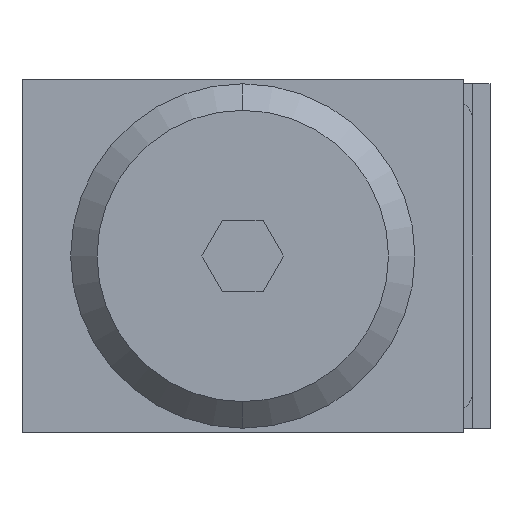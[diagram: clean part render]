
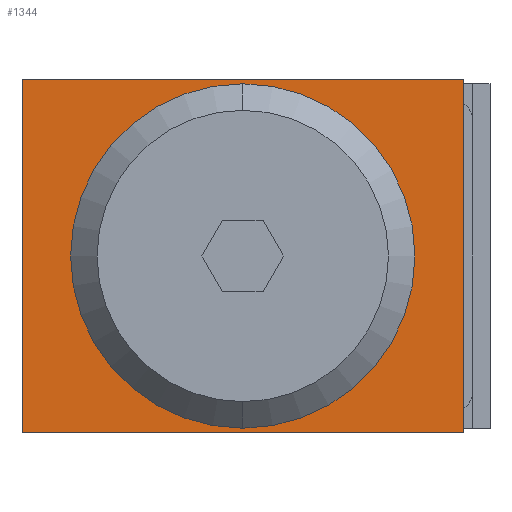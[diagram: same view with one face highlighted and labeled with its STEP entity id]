
A CAD part, front view. The second image highlights one B-rep face of the part: STEP entity #1344.
In plain terms, the highlighted planar face has unit normal (0, -1, 0).
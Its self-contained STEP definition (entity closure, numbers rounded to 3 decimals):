
#1069 = VERTEX_POINT ( 'NONE', #2254 ) ;
#1087 = EDGE_CURVE ( 'NONE', #1069, #1088, #2373, .T. ) ;
#1088 = VERTEX_POINT ( 'NONE', #2335 ) ;
#1232 = EDGE_CURVE ( 'NONE', #1233, #1234, #2713, .T. ) ;
#1233 = VERTEX_POINT ( 'NONE', #2708 ) ;
#1234 = VERTEX_POINT ( 'NONE', #2709 ) ;
#1235 = ORIENTED_EDGE ( 'NONE', *, *, #1236, .F. ) ;
#1236 = EDGE_CURVE ( 'NONE', #1237, #1234, #2707, .T. ) ;
#1237 = VERTEX_POINT ( 'NONE', #2703 ) ;
#1238 = ORIENTED_EDGE ( 'NONE', *, *, #1239, .F. ) ;
#1239 = EDGE_CURVE ( 'NONE', #1240, #1237, #2702, .T. ) ;
#1240 = VERTEX_POINT ( 'NONE', #2698 ) ;
#1241 = ORIENTED_EDGE ( 'NONE', *, *, #1242, .T. ) ;
#1242 = EDGE_CURVE ( 'NONE', #1240, #1233, #2697, .T. ) ;
#1243 = EDGE_LOOP ( 'NONE', ( #1244, #1347 ) ) ;
#1244 = ORIENTED_EDGE ( 'NONE', *, *, #1245, .F. ) ;
#1245 = EDGE_CURVE ( 'NONE', #1088, #1069, #2693, .T. ) ;
#1344 = ADVANCED_FACE ( 'NONE', ( #2943, #2942 ), #2941, .F. ) ;
#1345 = EDGE_LOOP ( 'NONE', ( #1346, #1235, #1238, #1241 ) ) ;
#1346 = ORIENTED_EDGE ( 'NONE', *, *, #1232, .T. ) ;
#1347 = ORIENTED_EDGE ( 'NONE', *, *, #1087, .F. ) ;
#2254 = CARTESIAN_POINT ( 'NONE',  ( -5.5, 0., 20. ) ) ;
#2335 = CARTESIAN_POINT ( 'NONE',  ( -44.5, 0., 20. ) ) ;
#2336 = DIRECTION ( 'NONE',  ( -1., 0., 0. ) ) ;
#2337 = DIRECTION ( 'NONE',  ( 0., -1., 0. ) ) ;
#2371 = CARTESIAN_POINT ( 'NONE',  ( -25., 0., 20. ) ) ;
#2372 = AXIS2_PLACEMENT_3D ( 'NONE', #2371, #2337, #2336 ) ;
#2373 = CIRCLE ( 'NONE', #2372, 19.5 ) ;
#2689 = DIRECTION ( 'NONE',  ( -1., 0., 0. ) ) ;
#2690 = DIRECTION ( 'NONE',  ( 0., -1., 0. ) ) ;
#2691 = CARTESIAN_POINT ( 'NONE',  ( -25., 0., 20. ) ) ;
#2692 = AXIS2_PLACEMENT_3D ( 'NONE', #2691, #2690, #2689 ) ;
#2693 = CIRCLE ( 'NONE', #2692, 19.5 ) ;
#2694 = DIRECTION ( 'NONE',  ( 0., 0., -1. ) ) ;
#2695 = VECTOR ( 'NONE', #2694, 1000. ) ;
#2696 = CARTESIAN_POINT ( 'NONE',  ( -50., 0., 40. ) ) ;
#2697 = LINE ( 'NONE', #2696, #2695 ) ;
#2698 = CARTESIAN_POINT ( 'NONE',  ( -50., 0., 40. ) ) ;
#2699 = DIRECTION ( 'NONE',  ( 1., 0., 0. ) ) ;
#2700 = VECTOR ( 'NONE', #2699, 1000. ) ;
#2701 = CARTESIAN_POINT ( 'NONE',  ( 0., 0., 40. ) ) ;
#2702 = LINE ( 'NONE', #2701, #2700 ) ;
#2703 = CARTESIAN_POINT ( 'NONE',  ( 0., 0., 40. ) ) ;
#2704 = DIRECTION ( 'NONE',  ( 0., 0., -1. ) ) ;
#2705 = VECTOR ( 'NONE', #2704, 1000. ) ;
#2706 = CARTESIAN_POINT ( 'NONE',  ( 0., 0., 40. ) ) ;
#2707 = LINE ( 'NONE', #2706, #2705 ) ;
#2708 = CARTESIAN_POINT ( 'NONE',  ( -50., 0., 0. ) ) ;
#2709 = CARTESIAN_POINT ( 'NONE',  ( 0., 0., 0. ) ) ;
#2710 = DIRECTION ( 'NONE',  ( 1., 0., 0. ) ) ;
#2711 = VECTOR ( 'NONE', #2710, 1000. ) ;
#2712 = CARTESIAN_POINT ( 'NONE',  ( 0., 0., 0. ) ) ;
#2713 = LINE ( 'NONE', #2712, #2711 ) ;
#2937 = DIRECTION ( 'NONE',  ( -1., 0., 0. ) ) ;
#2938 = DIRECTION ( 'NONE',  ( 0., 1., 0. ) ) ;
#2939 = CARTESIAN_POINT ( 'NONE',  ( 0., 0., 40. ) ) ;
#2940 = AXIS2_PLACEMENT_3D ( 'NONE', #2939, #2938, #2937 ) ;
#2941 = PLANE ( 'NONE',  #2940 ) ;
#2942 = FACE_BOUND ( 'NONE', #1243, .T. ) ;
#2943 = FACE_OUTER_BOUND ( 'NONE', #1345, .T. ) ;
